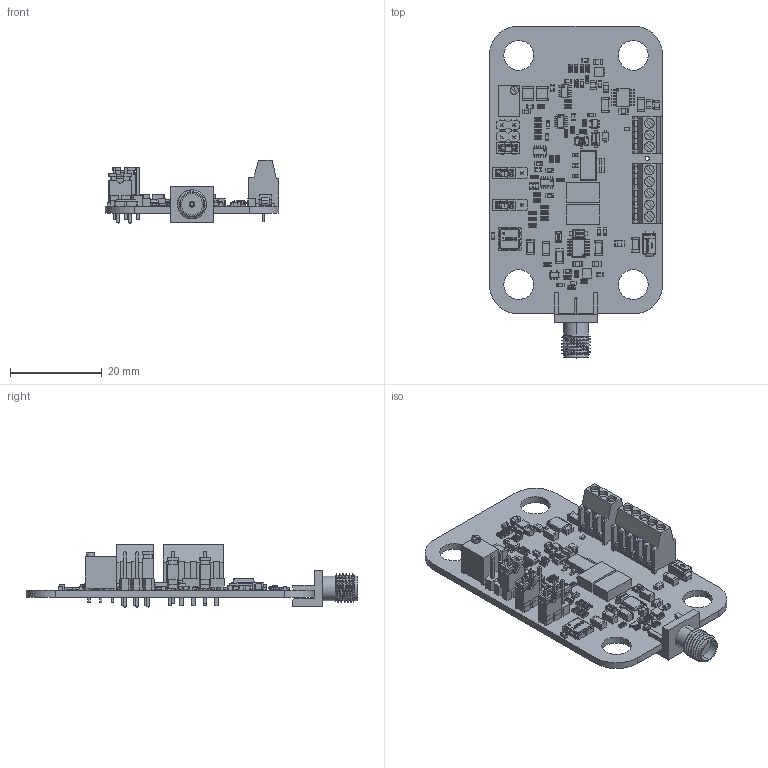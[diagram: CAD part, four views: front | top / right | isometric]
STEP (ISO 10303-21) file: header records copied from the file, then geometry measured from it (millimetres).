
FILE_DESCRIPTION (( 'STEP AP214' ), '1' );
FILE_NAME ('DRV200_V2.STEP', '2018-12-06T16:27:20', ( '' ), ( '' ), 'SwSTEP 2.0', 'SolidWorks 2015', '' );
FILE_SCHEMA (( 'AUTOMOTIVE_DESIGN' ));
Length unit declared in the file: millimetre
Products named in the file (139): DRV200_V2_1_29; DRV200_V2_1_53; DRV200_V2_1_13; DRV200_V2_1_36; DRV200_V2_1_97; DRV200_V2_1_24; DRV200_V2_1_47; DRV200_V2_1_104; DRV200_V2_8; DRV200_V2_1_46; DRV200_V2_1_82; DRV200_V2_14; DRV200_V2_12; DRV200_V2_1_34; DRV200_V2_1_73; DRV200_V2_1_105; DRV200_V2_22; DRV200_V2_1_77; DRV200_V2_2; DRV200_V2_1_26; DRV200_V2_1_68; DRV200_V2_1_57; 141_terminal-block_5p; DRV200_V2_1_67; DRV200_V2_1_95; DRV200_V2_1_20; DRV200_V2_1_58; DRV200_V2_1_70; DRV200_V2_1_103; DRV200_V2_1_51; DRV200_V2_1_101; DRV200_V2_6; DRV200_V2_1_31; DRV200_V2_1_99; DRV200_V2_1_8; DRV200_V2_1_22; DRV200_V2_18; DRV200_V2_1_91; DRV200_V2_1_9; DRV200_V2_1_72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
Assembly tree (218 placements, depth 5):
  DRV200_V2
    DRV200_V2
      DRV200_V2
      DRV200_V2_1
        DRV200_V2_2
      DRV200_V2_1_2
        DRV200_V2_2
      DRV200_V2_1_3
        DRV200_V2_3
      DRV200_V2_1_4
        DRV200_V2_2
      DRV200_V2_1_5
        DRV200_V2_4
        DRV200_V2_1_6
          DRV200_V2_5
          DRV200_V2_6
      DRV200_V2_1_7
        DRV200_V2_2
      DRV200_V2_1_8
        DRV200_V2_1_9
          DRV200_V2_7
      DRV200_V2_1_10
        DRV200_V2_1_9
          DRV200_V2_7
      DRV200_V2_1_11
        DRV200_V2_8
      DRV200_V2_1_12
        DRV200_V2_9
      DRV200_V2_1_13
        DRV200_V2_10
      DRV200_V2_1_14
        DRV200_V2_2
      DRV200_V2_1_15
        DRV200_V2_2
      DRV200_V2_1_16
        DRV200_V2_11
      DRV200_V2_1_17
        DRV200_V2_11
      DRV200_V2_1_18
        DRV200_V2_2
      DRV200_V2_1_19
        DRV200_V2_2
      DRV200_V2_1_20
        DRV200_V2_2
      DRV200_V2_1_21
        DRV200_V2_3
      DRV200_V2_1_22
        DRV200_V2_2
      DRV200_V2_1_23
        DRV200_V2_2
      DRV200_V2_1_24
        DRV200_V2_12
      DRV200_V2_1_25
        DRV200_V2_3
      DRV200_V2_1_26
        DRV200_V2_13
      DRV200_V2_1_27
        DRV200_V2_3
      DRV200_V2_1_28
        DRV200_V2_3
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Bounding box: 37.8 x 72.4 x 13.81 mm (x, y, z)
Volume: 5747 mm3; surface area: 9961.1 mm2
Topology: 230 solids, 236 shells, 9288 faces, 24117 edges, 15383 vertices
Faces by surface type: plane 5836, bspline 1948, cylinder 1445, cone 28, torus 27, sphere 4
Entity records: 175836 total; most frequent: CARTESIAN_POINT 37997, ORIENTED_EDGE 20601, DIRECTION 18376, EDGE_CURVE 10348, LINE 8506, VECTOR 8506, VERTEX_POINT 6772, AXIS2_PLACEMENT_3D 4935
